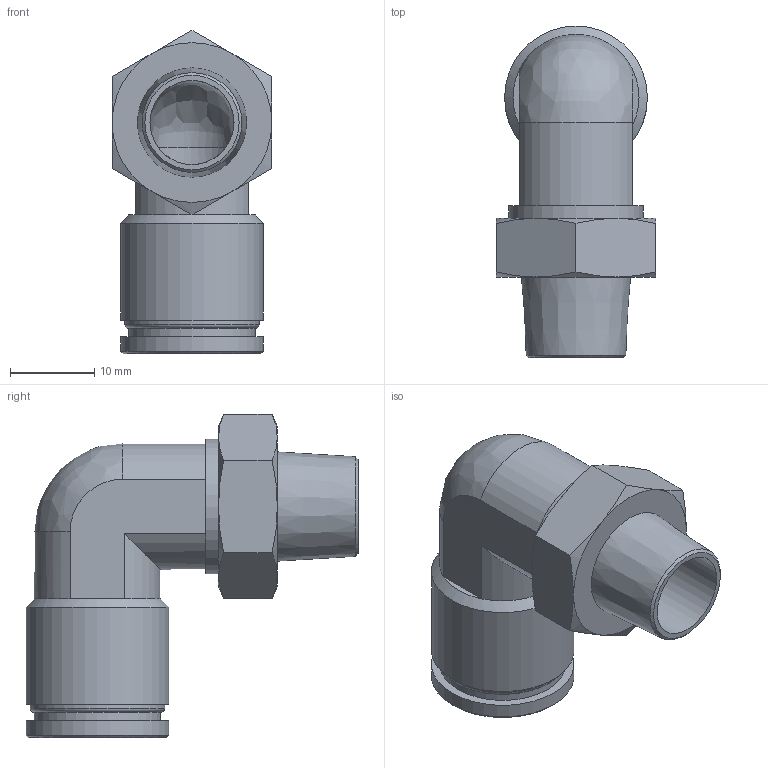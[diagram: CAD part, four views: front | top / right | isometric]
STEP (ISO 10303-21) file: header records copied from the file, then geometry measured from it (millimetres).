
FILE_DESCRIPTION(/* description */ (''),/* implementation_level */ '2;1');
FILE_NAME(/* name */ 'LXH21 0012 B2.stp',/* time_stamp */ '2026-05-01T12:17:35+02:00',/* author */ ('freju'),/* organization */ (''),/* preprocessor_version */ 'ST-DEVELOPER v20.1',/* originating_system */ 'Autodesk Inventor 2026',/* authorisation */ '');
FILE_SCHEMA (('AUTOMOTIVE_DESIGN { 1 0 10303 214 3 1 1 }'));
Length unit declared in the file: millimetre
Products named in the file (1): LXH21 0012 B2
Bounding box: 19 x 39.5 x 38.47 mm (x, y, z)
Volume: 5907.2 mm3; surface area: 5312.4 mm2
Topology: 1 solids, 1 shells, 49 faces, 108 edges, 65 vertices
Faces by surface type: plane 18, cone 16, cylinder 12, bspline 2, torus 1
Full cylindrical faces by diameter (mm): 10 x2, 12 x1, 15 x1, 16 x2, 17 x2
Entity records: 1385 total; most frequent: CARTESIAN_POINT 303, DIRECTION 230, ORIENTED_EDGE 212, EDGE_CURVE 106, AXIS2_PLACEMENT_3D 100, VERTEX_POINT 65, EDGE_LOOP 57, CIRCLE 50
